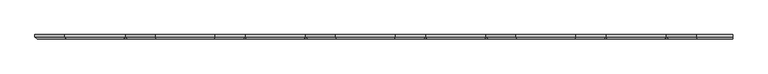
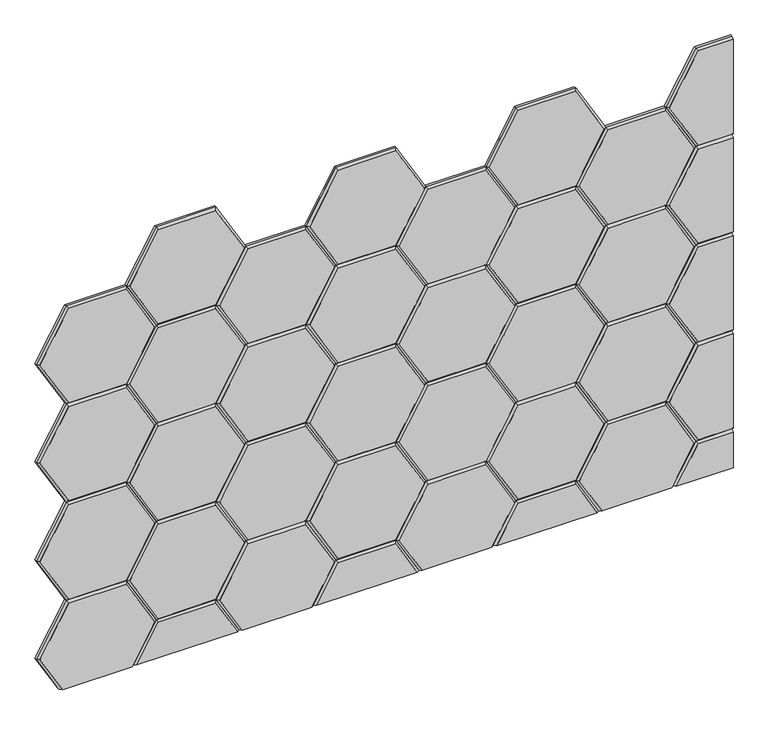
"""IFC4 building model written with IfcOpenShell, lengths in millimetres: proxy geometry, Wall_Clematis 3.3dm."""

from ifc_helpers import new_model, si_unit, origin, place, context, project, spatial, faceted_brep, source, transform, mapped, element, save


def generic_models_3ae3a5dc(model_context):
    return source(origin(), model_context, "Body", "Brep", [
        faceted_brep([(1120.2035, 12.0, 859.7506232), (1292.5425, 12.0, 859.7506232), (1378.712, 12.0, 710.5006711), (1292.5425, 12.0, 561.2507191), (1120.2035, 12.0, 561.2507191), (1034.034, 12.0, 710.5006711), (1120.2035, 6.0, 859.7506232), (1034.034, 6.0, 710.5006711), (1120.2035, 6.0, 561.2507191), (1292.5425, 6.0, 561.2507191), (1378.712, 6.0, 710.5006711), (1292.5425, 6.0, 859.7506232), (1289.0783984, 0.0, 853.7506232), (1123.6676016, 0.0, 853.7506232), (1040.9622032, 0.0, 710.5006711), (1123.6676016, 0.0, 567.2507191), (1289.0783984, 0.0, 567.2507191), (1371.7837968, 0.0, 710.5006711)], [[[0, 1, 2, 3, 4, 5]], [[6, 0, 5, 7]], [[7, 5, 4, 8]], [[8, 4, 3, 9]], [[9, 3, 2, 10]], [[10, 2, 1, 11]], [[11, 1, 0, 6]], [[12, 13, 14, 15, 16, 17]], [[6, 7, 14, 13]], [[7, 8, 15, 14]], [[8, 9, 16, 15]], [[9, 10, 17, 16]], [[10, 11, 12, 17]], [[11, 6, 13, 12]]]),
        faceted_brep([(1809.5595, 12.0, 859.7506232), (1895.729, 12.0, 710.5006711), (1809.5595, 12.0, 561.2507191), (1637.2205, 12.0, 561.2507191), (1551.051, 12.0, 710.5006711), (1637.2205, 12.0, 859.7506232), (1809.5595, 6.0, 859.7506232), (1895.729, 6.0, 710.5006711), (1809.5595, 6.0, 561.2507191), (1637.2205, 6.0, 561.2507191), (1551.051, 6.0, 710.5006711), (1637.2205, 6.0, 859.7506232), (1640.6846016, 0.0, 853.7506232), (1557.9792032, 0.0, 710.5006711), (1640.6846016, 0.0, 567.2507191), (1806.0953984, 0.0, 567.2507191), (1888.8007968, 0.0, 710.5006711), (1806.0953984, 0.0, 853.7506232)], [[[0, 1, 2, 3, 4, 5]], [[6, 7, 1, 0]], [[7, 8, 2, 1]], [[8, 9, 3, 2]], [[9, 10, 4, 3]], [[10, 11, 5, 4]], [[11, 6, 0, 5]], [[12, 13, 14, 15, 16, 17]], [[6, 17, 16, 7]], [[7, 16, 15, 8]], [[8, 15, 14, 9]], [[9, 14, 13, 10]], [[10, 13, 12, 11]], [[11, 12, 17, 6]]]),
        faceted_brep([(775.5255, 12.0, 859.7506232), (861.695, 12.0, 710.5006711), (775.5255, 12.0, 561.2507191), (603.1865, 12.0, 561.2507191), (517.017, 12.0, 710.5006711), (603.1865, 12.0, 859.7506232), (775.5255, 6.0, 859.7506232), (861.695, 6.0, 710.5006711), (775.5255, 6.0, 561.2507191), (603.1865, 6.0, 561.2507191), (517.017, 6.0, 710.5006711), (603.1865, 6.0, 859.7506232), (606.6506016, 0.0, 853.7506232), (523.9452032, 0.0, 710.5006711), (606.6506016, 0.0, 567.2507191), (772.0613984, 0.0, 567.2507191), (854.7667968, 0.0, 710.5006711), (772.0613984, 0.0, 853.7506232)], [[[0, 1, 2, 3, 4, 5]], [[6, 7, 1, 0]], [[7, 8, 2, 1]], [[8, 9, 3, 2]], [[9, 10, 4, 3]], [[10, 11, 5, 4]], [[11, 6, 0, 5]], [[12, 13, 14, 15, 16, 17]], [[6, 17, 16, 7]], [[7, 16, 15, 8]], [[8, 15, 14, 9]], [[9, 14, 13, 10]], [[10, 13, 12, 11]], [[11, 12, 17, 6]]]),
        faceted_brep([(86.1695, 12.0, 859.7506232), (258.5085, 12.0, 859.7506232), (344.678, 12.0, 710.5006711), (258.5085, 12.0, 561.2507191), (86.1695, 12.0, 561.2507191), (0.0, 12.0, 710.5006711), (86.1695, 6.0, 859.7506232), (0.0, 6.0, 710.5006711), (86.1695, 6.0, 561.2507191), (258.5085, 6.0, 561.2507191), (344.678, 6.0, 710.5006711), (258.5085, 6.0, 859.7506232), (255.0443984, 0.0, 853.7506232), (89.6336016, 0.0, 853.7506232), (6.9282032, 0.0, 710.5006711), (89.6336016, 0.0, 567.2507191), (255.0443984, 0.0, 567.2507191), (337.7497968, 0.0, 710.5006711)], [[[0, 1, 2, 3, 4, 5]], [[6, 0, 5, 7]], [[7, 5, 4, 8]], [[8, 4, 3, 9]], [[9, 3, 2, 10]], [[10, 2, 1, 11]], [[11, 1, 0, 6]], [[12, 13, 14, 15, 16, 17]], [[6, 7, 14, 13]], [[7, 8, 15, 14]], [[8, 9, 16, 15]], [[9, 10, 17, 16]], [[10, 11, 12, 17]], [[11, 6, 13, 12]]]),
        faceted_brep([(2000.0, 12.0, 710.5006711), (1895.729, 12.0, 710.5006711), (1809.5595, 12.0, 859.7506232), (1895.729, 12.0, 1009.0005752), (2000.0, 12.0, 1009.0005752), (1895.729, 6.0, 1009.0005752), (1809.5595, 6.0, 859.7506232), (1895.729, 6.0, 710.5006711), (2000.0, 6.0, 710.5006711), (2000.0, 6.0, 1009.0005752), (2000.0, 0.0, 716.5006711), (2000.0, 0.0, 1003.0005752), (1899.1931016, 0.0, 1003.0005752), (1816.4877032, 0.0, 859.7506232), (1899.1931016, 0.0, 716.5006711)], [[[0, 1, 2, 3, 4]], [[5, 3, 2, 6]], [[6, 2, 1, 7]], [[0, 8, 7, 1]], [[9, 4, 3, 5]], [[10, 11, 12, 13, 14]], [[5, 6, 13, 12]], [[6, 7, 14, 13]], [[8, 10, 14, 7]], [[11, 9, 5, 12]], [[0, 4, 9, 11, 10, 8]]]),
        faceted_brep([(1551.051, 12.0, 1009.0005752), (1637.2205, 12.0, 859.7506232), (1551.051, 12.0, 710.5006711), (1378.712, 12.0, 710.5006711), (1292.5425, 12.0, 859.7506232), (1378.712, 12.0, 1009.0005752), (1551.051, 6.0, 1009.0005752), (1637.2205, 6.0, 859.7506232), (1551.051, 6.0, 710.5006711), (1378.712, 6.0, 710.5006711), (1292.5425, 6.0, 859.7506232), (1378.712, 6.0, 1009.0005752), (1382.1761016, 0.0, 1003.0005752), (1299.4707032, 0.0, 859.7506232), (1382.1761016, 0.0, 716.5006711), (1547.5868984, 0.0, 716.5006711), (1630.2922968, 0.0, 859.7506232), (1547.5868984, 0.0, 1003.0005752)], [[[0, 1, 2, 3, 4, 5]], [[6, 7, 1, 0]], [[7, 8, 2, 1]], [[8, 9, 3, 2]], [[9, 10, 4, 3]], [[10, 11, 5, 4]], [[11, 6, 0, 5]], [[12, 13, 14, 15, 16, 17]], [[6, 17, 16, 7]], [[7, 16, 15, 8]], [[8, 15, 14, 9]], [[9, 14, 13, 10]], [[10, 13, 12, 11]], [[11, 12, 17, 6]]]),
        faceted_brep([(1034.034, 12.0, 1009.0005752), (1120.2035, 12.0, 859.7506232), (1034.034, 12.0, 710.5006711), (861.695, 12.0, 710.5006711), (775.5255, 12.0, 859.7506232), (861.695, 12.0, 1009.0005752), (1034.034, 6.0, 1009.0005752), (1120.2035, 6.0, 859.7506232), (1034.034, 6.0, 710.5006711), (861.695, 6.0, 710.5006711), (775.5255, 6.0, 859.7506232), (861.695, 6.0, 1009.0005752), (865.1591016, 0.0, 1003.0005752), (782.4537032, 0.0, 859.7506232), (865.1591016, 0.0, 716.5006711), (1030.5698984, 0.0, 716.5006711), (1113.2752968, 0.0, 859.7506232), (1030.5698984, 0.0, 1003.0005752)], [[[0, 1, 2, 3, 4, 5]], [[6, 7, 1, 0]], [[7, 8, 2, 1]], [[8, 9, 3, 2]], [[9, 10, 4, 3]], [[10, 11, 5, 4]], [[11, 6, 0, 5]], [[12, 13, 14, 15, 16, 17]], [[6, 17, 16, 7]], [[7, 16, 15, 8]], [[8, 15, 14, 9]], [[9, 14, 13, 10]], [[10, 13, 12, 11]], [[11, 12, 17, 6]]]),
        faceted_brep([(344.678, 12.0, 1009.0005752), (517.017, 12.0, 1009.0005752), (603.1865, 12.0, 859.7506232), (517.017, 12.0, 710.5006711), (344.678, 12.0, 710.5006711), (258.5085, 12.0, 859.7506232), (344.678, 6.0, 1009.0005752), (258.5085, 6.0, 859.7506232), (344.678, 6.0, 710.5006711), (517.017, 6.0, 710.5006711), (603.1865, 6.0, 859.7506232), (517.017, 6.0, 1009.0005752), (513.5528984, 0.0, 1003.0005752), (348.1421016, 0.0, 1003.0005752), (265.4367032, 0.0, 859.7506232), (348.1421016, 0.0, 716.5006711), (513.5528984, 0.0, 716.5006711), (596.2582968, 0.0, 859.7506232)], [[[0, 1, 2, 3, 4, 5]], [[6, 0, 5, 7]], [[7, 5, 4, 8]], [[8, 4, 3, 9]], [[9, 3, 2, 10]], [[10, 2, 1, 11]], [[11, 1, 0, 6]], [[12, 13, 14, 15, 16, 17]], [[6, 7, 14, 13]], [[7, 8, 15, 14]], [[8, 9, 16, 15]], [[9, 10, 17, 16]], [[10, 11, 12, 17]], [[11, 6, 13, 12]]]),
        faceted_brep([(2000.0, 12.0, 1307.5004794), (2000.0, 12.0, 1009.0005752), (1895.729, 12.0, 1009.0005752), (1809.5595, 12.0, 1158.2505273), (1895.729, 12.0, 1307.5004794), (1895.729, 6.0, 1009.0005752), (1809.5595, 6.0, 1158.2505273), (1895.729, 6.0, 1307.5004794), (2000.0, 6.0, 1307.5004794), (2000.0, 6.0, 1009.0005752), (2000.0, 0.0, 1301.5004794), (1899.1931016, 0.0, 1301.5004794), (1816.4877032, 0.0, 1158.2505273), (1899.1931016, 0.0, 1015.0005752), (2000.0, 0.0, 1015.0005752)], [[[0, 1, 2, 3, 4]], [[5, 6, 3, 2]], [[6, 7, 4, 3]], [[0, 4, 7, 8]], [[9, 5, 2, 1]], [[10, 11, 12, 13, 14]], [[5, 13, 12, 6]], [[6, 12, 11, 7]], [[8, 7, 11, 10]], [[14, 13, 5, 9]], [[0, 8, 10, 14, 9, 1]]]),
        faceted_brep([(1120.2035, 12.0, 859.7506232), (1034.034, 12.0, 1009.0005752), (1120.2035, 12.0, 1158.2505273), (1292.5425, 12.0, 1158.2505273), (1378.712, 12.0, 1009.0005752), (1292.5425, 12.0, 859.7506232), (1120.2035, 6.0, 859.7506232), (1034.034, 6.0, 1009.0005752), (1120.2035, 6.0, 1158.2505273), (1292.5425, 6.0, 1158.2505273), (1378.712, 6.0, 1009.0005752), (1292.5425, 6.0, 859.7506232), (1289.0783984, 0.0, 865.7506232), (1371.7837968, 0.0, 1009.0005752), (1289.0783984, 0.0, 1152.2505273), (1123.6676016, 0.0, 1152.2505273), (1040.9622032, 0.0, 1009.0005752), (1123.6676016, 0.0, 865.7506232)], [[[0, 1, 2, 3, 4, 5]], [[6, 7, 1, 0]], [[7, 8, 2, 1]], [[8, 9, 3, 2]], [[9, 10, 4, 3]], [[10, 11, 5, 4]], [[11, 6, 0, 5]], [[12, 13, 14, 15, 16, 17]], [[6, 17, 16, 7]], [[7, 16, 15, 8]], [[8, 15, 14, 9]], [[9, 14, 13, 10]], [[10, 13, 12, 11]], [[11, 12, 17, 6]]]),
        faceted_brep([(1809.5595, 12.0, 859.7506232), (1637.2205, 12.0, 859.7506232), (1551.051, 12.0, 1009.0005752), (1637.2205, 12.0, 1158.2505273), (1809.5595, 12.0, 1158.2505273), (1895.729, 12.0, 1009.0005752), (1809.5595, 6.0, 859.7506232), (1895.729, 6.0, 1009.0005752), (1809.5595, 6.0, 1158.2505273), (1637.2205, 6.0, 1158.2505273), (1551.051, 6.0, 1009.0005752), (1637.2205, 6.0, 859.7506232), (1640.6846016, 0.0, 865.7506232), (1806.0953984, 0.0, 865.7506232), (1888.8007968, 0.0, 1009.0005752), (1806.0953984, 0.0, 1152.2505273), (1640.6846016, 0.0, 1152.2505273), (1557.9792032, 0.0, 1009.0005752)], [[[0, 1, 2, 3, 4, 5]], [[6, 0, 5, 7]], [[7, 5, 4, 8]], [[8, 4, 3, 9]], [[9, 3, 2, 10]], [[10, 2, 1, 11]], [[11, 1, 0, 6]], [[12, 13, 14, 15, 16, 17]], [[6, 7, 14, 13]], [[7, 8, 15, 14]], [[8, 9, 16, 15]], [[9, 10, 17, 16]], [[10, 11, 12, 17]], [[11, 6, 13, 12]]]),
        faceted_brep([(1551.051, 12.0, 1009.0005752), (1378.712, 12.0, 1009.0005752), (1292.5425, 12.0, 1158.2505273), (1378.712, 12.0, 1307.5004794), (1551.051, 12.0, 1307.5004794), (1637.2205, 12.0, 1158.2505273), (1551.051, 6.0, 1009.0005752), (1637.2205, 6.0, 1158.2505273), (1551.051, 6.0, 1307.5004794), (1378.712, 6.0, 1307.5004794), (1292.5425, 6.0, 1158.2505273), (1378.712, 6.0, 1009.0005752), (1382.1761016, 0.0, 1015.0005752), (1547.5868984, 0.0, 1015.0005752), (1630.2922968, 0.0, 1158.2505273), (1547.5868984, 0.0, 1301.5004794), (1382.1761016, 0.0, 1301.5004794), (1299.4707032, 0.0, 1158.2505273)], [[[0, 1, 2, 3, 4, 5]], [[6, 0, 5, 7]], [[7, 5, 4, 8]], [[8, 4, 3, 9]], [[9, 3, 2, 10]], [[10, 2, 1, 11]], [[11, 1, 0, 6]], [[12, 13, 14, 15, 16, 17]], [[6, 7, 14, 13]], [[7, 8, 15, 14]], [[8, 9, 16, 15]], [[9, 10, 17, 16]], [[10, 11, 12, 17]], [[11, 6, 13, 12]]]),
        faceted_brep([(1034.034, 12.0, 1009.0005752), (861.695, 12.0, 1009.0005752), (775.5255, 12.0, 1158.2505273), (861.695, 12.0, 1307.5004794), (1034.034, 12.0, 1307.5004794), (1120.2035, 12.0, 1158.2505273), (1034.034, 6.0, 1009.0005752), (1120.2035, 6.0, 1158.2505273), (1034.034, 6.0, 1307.5004794), (861.695, 6.0, 1307.5004794), (775.5255, 6.0, 1158.2505273), (861.695, 6.0, 1009.0005752), (865.1591016, 0.0, 1015.0005752), (1030.5698984, 0.0, 1015.0005752), (1113.2752968, 0.0, 1158.2505273), (1030.5698984, 0.0, 1301.5004794), (865.1591016, 0.0, 1301.5004794), (782.4537032, 0.0, 1158.2505273)], [[[0, 1, 2, 3, 4, 5]], [[6, 0, 5, 7]], [[7, 5, 4, 8]], [[8, 4, 3, 9]], [[9, 3, 2, 10]], [[10, 2, 1, 11]], [[11, 1, 0, 6]], [[12, 13, 14, 15, 16, 17]], [[6, 7, 14, 13]], [[7, 8, 15, 14]], [[8, 9, 16, 15]], [[9, 10, 17, 16]], [[10, 11, 12, 17]], [[11, 6, 13, 12]]]),
        faceted_brep([(775.5255, 12.0, 859.7506232), (603.1865, 12.0, 859.7506232), (517.017, 12.0, 1009.0005752), (603.1865, 12.0, 1158.2505273), (775.5255, 12.0, 1158.2505273), (861.695, 12.0, 1009.0005752), (775.5255, 6.0, 859.7506232), (861.695, 6.0, 1009.0005752), (775.5255, 6.0, 1158.2505273), (603.1865, 6.0, 1158.2505273), (517.017, 6.0, 1009.0005752), (603.1865, 6.0, 859.7506232), (606.6506016, 0.0, 865.7506232), (772.0613984, 0.0, 865.7506232), (854.7667968, 0.0, 1009.0005752), (772.0613984, 0.0, 1152.2505273), (606.6506016, 0.0, 1152.2505273), (523.9452032, 0.0, 1009.0005752)], [[[0, 1, 2, 3, 4, 5]], [[6, 0, 5, 7]], [[7, 5, 4, 8]], [[8, 4, 3, 9]], [[9, 3, 2, 10]], [[10, 2, 1, 11]], [[11, 1, 0, 6]], [[12, 13, 14, 15, 16, 17]], [[6, 7, 14, 13]], [[7, 8, 15, 14]], [[8, 9, 16, 15]], [[9, 10, 17, 16]], [[10, 11, 12, 17]], [[11, 6, 13, 12]]]),
        faceted_brep([(86.1695, 12.0, 859.7506232), (0.0, 12.0, 1009.0005752), (86.1695, 12.0, 1158.2505273), (258.5085, 12.0, 1158.2505273), (344.678, 12.0, 1009.0005752), (258.5085, 12.0, 859.7506232), (86.1695, 6.0, 859.7506232), (0.0, 6.0, 1009.0005752), (86.1695, 6.0, 1158.2505273), (258.5085, 6.0, 1158.2505273), (344.678, 6.0, 1009.0005752), (258.5085, 6.0, 859.7506232), (255.0443984, 0.0, 865.7506232), (337.7497968, 0.0, 1009.0005752), (255.0443984, 0.0, 1152.2505273), (89.6336016, 0.0, 1152.2505273), (6.9282032, 0.0, 1009.0005752), (89.6336016, 0.0, 865.7506232)], [[[0, 1, 2, 3, 4, 5]], [[6, 7, 1, 0]], [[7, 8, 2, 1]], [[8, 9, 3, 2]], [[9, 10, 4, 3]], [[10, 11, 5, 4]], [[11, 6, 0, 5]], [[12, 13, 14, 15, 16, 17]], [[6, 17, 16, 7]], [[7, 16, 15, 8]], [[8, 15, 14, 9]], [[9, 14, 13, 10]], [[10, 13, 12, 11]], [[11, 12, 17, 6]]]),
        faceted_brep([(344.678, 12.0, 1009.0005752), (258.5085, 12.0, 1158.2505273), (344.678, 12.0, 1307.5004794), (517.017, 12.0, 1307.5004794), (603.1865, 12.0, 1158.2505273), (517.017, 12.0, 1009.0005752), (344.678, 6.0, 1009.0005752), (258.5085, 6.0, 1158.2505273), (344.678, 6.0, 1307.5004794), (517.017, 6.0, 1307.5004794), (603.1865, 6.0, 1158.2505273), (517.017, 6.0, 1009.0005752), (513.5528984, 0.0, 1015.0005752), (596.2582968, 0.0, 1158.2505273), (513.5528984, 0.0, 1301.5004794), (348.1421016, 0.0, 1301.5004794), (265.4367032, 0.0, 1158.2505273), (348.1421016, 0.0, 1015.0005752)], [[[0, 1, 2, 3, 4, 5]], [[6, 7, 1, 0]], [[7, 8, 2, 1]], [[8, 9, 3, 2]], [[9, 10, 4, 3]], [[10, 11, 5, 4]], [[11, 6, 0, 5]], [[12, 13, 14, 15, 16, 17]], [[6, 17, 16, 7]], [[7, 16, 15, 8]], [[8, 15, 14, 9]], [[9, 14, 13, 10]], [[10, 13, 12, 11]], [[11, 12, 17, 6]]]),
        faceted_brep([(2000.0, 12.0, 710.5006711), (2000.0, 12.0, 412.000767), (1895.729, 12.0, 412.000767), (1809.5595, 12.0, 561.2507191), (1895.729, 12.0, 710.5006711), (1895.729, 6.0, 412.000767), (1809.5595, 6.0, 561.2507191), (1895.729, 6.0, 710.5006711), (2000.0, 6.0, 710.5006711), (2000.0, 6.0, 412.000767), (2000.0, 0.0, 704.5006711), (1899.1931016, 0.0, 704.5006711), (1816.4877032, 0.0, 561.2507191), (1899.1931016, 0.0, 418.000767), (2000.0, 0.0, 418.000767)], [[[0, 1, 2, 3, 4]], [[5, 6, 3, 2]], [[6, 7, 4, 3]], [[0, 4, 7, 8]], [[9, 5, 2, 1]], [[10, 11, 12, 13, 14]], [[5, 13, 12, 6]], [[6, 12, 11, 7]], [[8, 7, 11, 10]], [[14, 13, 5, 9]], [[0, 8, 10, 14, 9, 1]]]),
        faceted_brep([(1120.2035, 12.0, 262.7508149), (1034.034, 12.0, 412.000767), (1120.2035, 12.0, 561.2507191), (1292.5425, 12.0, 561.2507191), (1378.712, 12.0, 412.000767), (1292.5425, 12.0, 262.7508149), (1120.2035, 6.0, 262.7508149), (1034.034, 6.0, 412.000767), (1120.2035, 6.0, 561.2507191), (1292.5425, 6.0, 561.2507191), (1378.712, 6.0, 412.000767), (1292.5425, 6.0, 262.7508149), (1289.0783984, 0.0, 268.7508149), (1371.7837968, 0.0, 412.000767), (1289.0783984, 0.0, 555.2507191), (1123.6676016, 0.0, 555.2507191), (1040.9622032, 0.0, 412.000767), (1123.6676016, 0.0, 268.7508149)], [[[0, 1, 2, 3, 4, 5]], [[6, 7, 1, 0]], [[7, 8, 2, 1]], [[8, 9, 3, 2]], [[9, 10, 4, 3]], [[10, 11, 5, 4]], [[11, 6, 0, 5]], [[12, 13, 14, 15, 16, 17]], [[6, 17, 16, 7]], [[7, 16, 15, 8]], [[8, 15, 14, 9]], [[9, 14, 13, 10]], [[10, 13, 12, 11]], [[11, 12, 17, 6]]]),
        faceted_brep([(1809.5595, 12.0, 262.7508149), (1637.2205, 12.0, 262.7508149), (1551.051, 12.0, 412.000767), (1637.2205, 12.0, 561.2507191), (1809.5595, 12.0, 561.2507191), (1895.729, 12.0, 412.000767), (1809.5595, 6.0, 262.7508149), (1895.729, 6.0, 412.000767), (1809.5595, 6.0, 561.2507191), (1637.2205, 6.0, 561.2507191), (1551.051, 6.0, 412.000767), (1637.2205, 6.0, 262.7508149), (1640.6846016, 0.0, 268.7508149), (1806.0953984, 0.0, 268.7508149), (1888.8007968, 0.0, 412.000767), (1806.0953984, 0.0, 555.2507191), (1640.6846016, 0.0, 555.2507191), (1557.9792032, 0.0, 412.000767)], [[[0, 1, 2, 3, 4, 5]], [[6, 0, 5, 7]], [[7, 5, 4, 8]], [[8, 4, 3, 9]], [[9, 3, 2, 10]], [[10, 2, 1, 11]], [[11, 1, 0, 6]], [[12, 13, 14, 15, 16, 17]], [[6, 7, 14, 13]], [[7, 8, 15, 14]], [[8, 9, 16, 15]], [[9, 10, 17, 16]], [[10, 11, 12, 17]], [[11, 6, 13, 12]]]),
        faceted_brep([(1551.051, 12.0, 412.000767), (1378.712, 12.0, 412.000767), (1292.5425, 12.0, 561.2507191), (1378.712, 12.0, 710.5006711), (1551.051, 12.0, 710.5006711), (1637.2205, 12.0, 561.2507191), (1551.051, 6.0, 412.000767), (1637.2205, 6.0, 561.2507191), (1551.051, 6.0, 710.5006711), (1378.712, 6.0, 710.5006711), (1292.5425, 6.0, 561.2507191), (1378.712, 6.0, 412.000767), (1382.1761016, 0.0, 418.000767), (1547.5868984, 0.0, 418.000767), (1630.2922968, 0.0, 561.2507191), (1547.5868984, 0.0, 704.5006711), (1382.1761016, 0.0, 704.5006711), (1299.4707032, 0.0, 561.2507191)], [[[0, 1, 2, 3, 4, 5]], [[6, 0, 5, 7]], [[7, 5, 4, 8]], [[8, 4, 3, 9]], [[9, 3, 2, 10]], [[10, 2, 1, 11]], [[11, 1, 0, 6]], [[12, 13, 14, 15, 16, 17]], [[6, 7, 14, 13]], [[7, 8, 15, 14]], [[8, 9, 16, 15]], [[9, 10, 17, 16]], [[10, 11, 12, 17]], [[11, 6, 13, 12]]]),
        faceted_brep([(1034.034, 12.0, 412.000767), (861.695, 12.0, 412.000767), (775.5255, 12.0, 561.2507191), (861.695, 12.0, 710.5006711), (1034.034, 12.0, 710.5006711), (1120.2035, 12.0, 561.2507191), (1034.034, 6.0, 412.000767), (1120.2035, 6.0, 561.2507191), (1034.034, 6.0, 710.5006711), (861.695, 6.0, 710.5006711), (775.5255, 6.0, 561.2507191), (861.695, 6.0, 412.000767), (865.1591016, 0.0, 418.000767), (1030.5698984, 0.0, 418.000767), (1113.2752968, 0.0, 561.2507191), (1030.5698984, 0.0, 704.5006711), (865.1591016, 0.0, 704.5006711), (782.4537032, 0.0, 561.2507191)], [[[0, 1, 2, 3, 4, 5]], [[6, 0, 5, 7]], [[7, 5, 4, 8]], [[8, 4, 3, 9]], [[9, 3, 2, 10]], [[10, 2, 1, 11]], [[11, 1, 0, 6]], [[12, 13, 14, 15, 16, 17]], [[6, 7, 14, 13]], [[7, 8, 15, 14]], [[8, 9, 16, 15]], [[9, 10, 17, 16]], [[10, 11, 12, 17]], [[11, 6, 13, 12]]]),
        faceted_brep([(775.5255, 12.0, 262.7508149), (603.1865, 12.0, 262.7508149), (517.017, 12.0, 412.000767), (603.1865, 12.0, 561.2507191), (775.5255, 12.0, 561.2507191), (861.695, 12.0, 412.000767), (775.5255, 6.0, 262.7508149), (861.695, 6.0, 412.000767), (775.5255, 6.0, 561.2507191), (603.1865, 6.0, 561.2507191), (517.017, 6.0, 412.000767), (603.1865, 6.0, 262.7508149), (606.6506016, 0.0, 268.7508149), (772.0613984, 0.0, 268.7508149), (854.7667968, 0.0, 412.000767), (772.0613984, 0.0, 555.2507191), (606.6506016, 0.0, 555.2507191), (523.9452032, 0.0, 412.000767)], [[[0, 1, 2, 3, 4, 5]], [[6, 0, 5, 7]], [[7, 5, 4, 8]], [[8, 4, 3, 9]], [[9, 3, 2, 10]], [[10, 2, 1, 11]], [[11, 1, 0, 6]], [[12, 13, 14, 15, 16, 17]], [[6, 7, 14, 13]], [[7, 8, 15, 14]], [[8, 9, 16, 15]], [[9, 10, 17, 16]], [[10, 11, 12, 17]], [[11, 6, 13, 12]]]),
        faceted_brep([(86.1695, 12.0, 262.7508149), (0.0, 12.0, 412.000767), (86.1695, 12.0, 561.2507191), (258.5085, 12.0, 561.2507191), (344.678, 12.0, 412.000767), (258.5085, 12.0, 262.7508149), (86.1695, 6.0, 262.7508149), (0.0, 6.0, 412.000767), (86.1695, 6.0, 561.2507191), (258.5085, 6.0, 561.2507191), (344.678, 6.0, 412.000767), (258.5085, 6.0, 262.7508149), (255.0443984, 0.0, 268.7508149), (337.7497968, 0.0, 412.000767), (255.0443984, 0.0, 555.2507191), (89.6336016, 0.0, 555.2507191), (6.9282032, 0.0, 412.000767), (89.6336016, 0.0, 268.7508149)], [[[0, 1, 2, 3, 4, 5]], [[6, 7, 1, 0]], [[7, 8, 2, 1]], [[8, 9, 3, 2]], [[9, 10, 4, 3]], [[10, 11, 5, 4]], [[11, 6, 0, 5]], [[12, 13, 14, 15, 16, 17]], [[6, 17, 16, 7]], [[7, 16, 15, 8]], [[8, 15, 14, 9]], [[9, 14, 13, 10]], [[10, 13, 12, 11]], [[11, 12, 17, 6]]]),
        faceted_brep([(344.678, 12.0, 412.000767), (258.5085, 12.0, 561.2507191), (344.678, 12.0, 710.5006711), (517.017, 12.0, 710.5006711), (603.1865, 12.0, 561.2507191), (517.017, 12.0, 412.000767), (344.678, 6.0, 412.000767), (258.5085, 6.0, 561.2507191), (344.678, 6.0, 710.5006711), (517.017, 6.0, 710.5006711), (603.1865, 6.0, 561.2507191), (517.017, 6.0, 412.000767), (513.5528984, 0.0, 418.000767), (596.2582968, 0.0, 561.2507191), (513.5528984, 0.0, 704.5006711), (348.1421016, 0.0, 704.5006711), (265.4367032, 0.0, 561.2507191), (348.1421016, 0.0, 418.000767)], [[[0, 1, 2, 3, 4, 5]], [[6, 7, 1, 0]], [[7, 8, 2, 1]], [[8, 9, 3, 2]], [[9, 10, 4, 3]], [[10, 11, 5, 4]], [[11, 6, 0, 5]], [[12, 13, 14, 15, 16, 17]], [[6, 17, 16, 7]], [[7, 16, 15, 8]], [[8, 15, 14, 9]], [[9, 14, 13, 10]], [[10, 13, 12, 11]], [[11, 12, 17, 6]]]),
        faceted_brep([(2000.0, 12.0, 412.000767), (2000.0, 12.0, 113.5008629), (1895.729, 12.0, 113.5008629), (1809.5595, 12.0, 262.7508149), (1895.729, 12.0, 412.000767), (1895.729, 6.0, 113.5008629), (1809.5595, 6.0, 262.7508149), (1895.729, 6.0, 412.000767), (2000.0, 6.0, 412.000767), (2000.0, 6.0, 113.5008629), (2000.0, 0.0, 406.000767), (1899.1931016, 0.0, 406.000767), (1816.4877032, 0.0, 262.7508149), (1899.1931016, 0.0, 119.5008629), (2000.0, 0.0, 119.5008629)], [[[0, 1, 2, 3, 4]], [[5, 6, 3, 2]], [[6, 7, 4, 3]], [[0, 4, 7, 8]], [[9, 5, 2, 1]], [[10, 11, 12, 13, 14]], [[5, 13, 12, 6]], [[6, 12, 11, 7]], [[8, 7, 11, 10]], [[14, 13, 5, 9]], [[0, 8, 10, 14, 9, 1]]]),
        faceted_brep([(1551.051, 12.0, 113.5008629), (1378.712, 12.0, 113.5008629), (1292.5425, 12.0, 262.7508149), (1378.712, 12.0, 412.000767), (1551.051, 12.0, 412.000767), (1637.2205, 12.0, 262.7508149), (1551.051, 6.0, 113.5008629), (1637.2205, 6.0, 262.7508149), (1551.051, 6.0, 412.000767), (1378.712, 6.0, 412.000767), (1292.5425, 6.0, 262.7508149), (1378.712, 6.0, 113.5008629), (1382.1761016, 0.0, 119.5008629), (1547.5868984, 0.0, 119.5008629), (1630.2922968, 0.0, 262.7508149), (1547.5868984, 0.0, 406.000767), (1382.1761016, 0.0, 406.000767), (1299.4707032, 0.0, 262.7508149)], [[[0, 1, 2, 3, 4, 5]], [[6, 0, 5, 7]], [[7, 5, 4, 8]], [[8, 4, 3, 9]], [[9, 3, 2, 10]], [[10, 2, 1, 11]], [[11, 1, 0, 6]], [[12, 13, 14, 15, 16, 17]], [[6, 7, 14, 13]], [[7, 8, 15, 14]], [[8, 9, 16, 15]], [[9, 10, 17, 16]], [[10, 11, 12, 17]], [[11, 6, 13, 12]]]),
        faceted_brep([(1034.034, 12.0, 113.5008629), (861.695, 12.0, 113.5008629), (775.5255, 12.0, 262.7508149), (861.695, 12.0, 412.000767), (1034.034, 12.0, 412.000767), (1120.2035, 12.0, 262.7508149), (1034.034, 6.0, 113.5008629), (1120.2035, 6.0, 262.7508149), (1034.034, 6.0, 412.000767), (861.695, 6.0, 412.000767), (775.5255, 6.0, 262.7508149), (861.695, 6.0, 113.5008629), (865.1591016, 0.0, 119.5008629), (1030.5698984, 0.0, 119.5008629), (1113.2752968, 0.0, 262.7508149), (1030.5698984, 0.0, 406.000767), (865.1591016, 0.0, 406.000767), (782.4537032, 0.0, 262.7508149)], [[[0, 1, 2, 3, 4, 5]], [[6, 0, 5, 7]], [[7, 5, 4, 8]], [[8, 4, 3, 9]], [[9, 3, 2, 10]], [[10, 2, 1, 11]], [[11, 1, 0, 6]], [[12, 13, 14, 15, 16, 17]], [[6, 7, 14, 13]], [[7, 8, 15, 14]], [[8, 9, 16, 15]], [[9, 10, 17, 16]], [[10, 11, 12, 17]], [[11, 6, 13, 12]]]),
        faceted_brep([(344.678, 12.0, 113.5008629), (258.5085, 12.0, 262.7508149), (344.678, 12.0, 412.000767), (517.017, 12.0, 412.000767), (603.1865, 12.0, 262.7508149), (517.017, 12.0, 113.5008629), (344.678, 6.0, 113.5008629), (258.5085, 6.0, 262.7508149), (344.678, 6.0, 412.000767), (517.017, 6.0, 412.000767), (603.1865, 6.0, 262.7508149), (517.017, 6.0, 113.5008629), (513.5528984, 0.0, 119.5008629), (596.2582968, 0.0, 262.7508149), (513.5528984, 0.0, 406.000767), (348.1421016, 0.0, 406.000767), (265.4367032, 0.0, 262.7508149), (348.1421016, 0.0, 119.5008629)], [[[0, 1, 2, 3, 4, 5]], [[6, 7, 1, 0]], [[7, 8, 2, 1]], [[8, 9, 3, 2]], [[9, 10, 4, 3]], [[10, 11, 5, 4]], [[11, 6, 0, 5]], [[12, 13, 14, 15, 16, 17]], [[6, 17, 16, 7]], [[7, 16, 15, 8]], [[8, 15, 14, 9]], [[9, 14, 13, 10]], [[10, 13, 12, 11]], [[11, 12, 17, 6]]]),
        faceted_brep([(2000.0, 12.0, 0.0), (1830.1992463, 12.0, 0.0), (1895.729, 12.0, 113.5008629), (2000.0, 12.0, 113.5008629), (1830.1992463, 6.0, 0.0), (1895.729, 6.0, 113.5008629), (2000.0, 6.0, 113.5008629), (1837.1274495, 0.0, 0.0), (2000.0, 0.0, 0.0), (2000.0, 0.0, 107.5008629), (1899.1931016, 0.0, 107.5008629)], [[[0, 1, 2, 3]], [[1, 4, 5, 2]], [[6, 3, 2, 5]], [[7, 8, 9, 10]], [[4, 7, 10, 5]], [[9, 6, 5, 10]], [[7, 4, 1, 0, 8]], [[0, 3, 6, 9, 8]]]),
        faceted_brep([(1099.5637537, 12.0, 0.0), (1034.034, 12.0, 113.5008629), (1120.2035, 12.0, 262.7508149), (1292.5425, 12.0, 262.7508149), (1378.712, 12.0, 113.5008629), (1313.1822463, 12.0, 0.0), (1120.2035, 6.0, 262.7508149), (1034.034, 6.0, 113.5008629), (1099.5637537, 6.0, 0.0), (1313.1822463, 6.0, 0.0), (1378.712, 6.0, 113.5008629), (1292.5425, 6.0, 262.7508149), (1106.491957, 0.0, 0.0), (1306.254043, 0.0, 0.0), (1371.7837968, 0.0, 113.5008629), (1289.0783984, 0.0, 256.7508149), (1123.6676016, 0.0, 256.7508149), (1040.9622032, 0.0, 113.5008629)], [[[0, 1, 2, 3, 4, 5]], [[6, 2, 1, 7]], [[0, 8, 7, 1]], [[9, 5, 4, 10]], [[10, 4, 3, 11]], [[11, 3, 2, 6]], [[12, 13, 14, 15, 16, 17]], [[6, 7, 17, 16]], [[8, 12, 17, 7]], [[13, 9, 10, 14]], [[10, 11, 15, 14]], [[11, 6, 16, 15]], [[0, 5, 9, 13, 12, 8]]]),
        faceted_brep([(1830.1992463, 12.0, 0.0), (1616.5807537, 12.0, 0.0), (1551.051, 12.0, 113.5008629), (1637.2205, 12.0, 262.7508149), (1809.5595, 12.0, 262.7508149), (1895.729, 12.0, 113.5008629), (1809.5595, 6.0, 262.7508149), (1895.729, 6.0, 113.5008629), (1830.1992463, 6.0, 0.0), (1616.5807537, 6.0, 0.0), (1551.051, 6.0, 113.5008629), (1637.2205, 6.0, 262.7508149), (1823.271043, 0.0, 0.0), (1888.8007968, 0.0, 113.5008629), (1806.0953984, 0.0, 256.7508149), (1640.6846016, 0.0, 256.7508149), (1557.9792032, 0.0, 113.5008629), (1623.508957, 0.0, 0.0)], [[[0, 1, 2, 3, 4, 5]], [[6, 7, 5, 4]], [[0, 5, 7, 8]], [[9, 10, 2, 1]], [[10, 11, 3, 2]], [[11, 6, 4, 3]], [[12, 13, 14, 15, 16, 17]], [[6, 14, 13, 7]], [[8, 7, 13, 12]], [[17, 16, 10, 9]], [[10, 16, 15, 11]], [[11, 15, 14, 6]], [[0, 8, 12, 17, 9, 1]]]),
        faceted_brep([(1616.5807537, 12.0, 0.0), (1313.1822463, 12.0, 0.0), (1378.712, 12.0, 113.5008629), (1551.051, 12.0, 113.5008629), (1551.051, 6.0, 113.5008629), (1616.5807537, 6.0, 0.0), (1313.1822463, 6.0, 0.0), (1378.712, 6.0, 113.5008629), (1609.6525505, 0.0, 0.0), (1547.5868984, 0.0, 107.5008629), (1382.1761016, 0.0, 107.5008629), (1320.1104495, 0.0, 0.0)], [[[0, 1, 2, 3]], [[0, 3, 4, 5]], [[6, 7, 2, 1]], [[7, 4, 3, 2]], [[8, 9, 10, 11]], [[5, 4, 9, 8]], [[11, 10, 7, 6]], [[7, 10, 9, 4]], [[0, 5, 8, 11, 6, 1]]]),
        faceted_brep([(1099.5637537, 12.0, 0.0), (796.1652463, 12.0, 0.0), (861.695, 12.0, 113.5008629), (1034.034, 12.0, 113.5008629), (1034.034, 6.0, 113.5008629), (1099.5637537, 6.0, 0.0), (796.1652463, 6.0, 0.0), (861.695, 6.0, 113.5008629), (1092.6355505, 0.0, 0.0), (1030.5698984, 0.0, 107.5008629), (865.1591016, 0.0, 107.5008629), (803.0934495, 0.0, 0.0)], [[[0, 1, 2, 3]], [[0, 3, 4, 5]], [[6, 7, 2, 1]], [[7, 4, 3, 2]], [[8, 9, 10, 11]], [[5, 4, 9, 8]], [[11, 10, 7, 6]], [[7, 10, 9, 4]], [[0, 5, 8, 11, 6, 1]]]),
        faceted_brep([(796.1652463, 12.0, 0.0), (582.5467537, 12.0, 0.0), (517.017, 12.0, 113.5008629), (603.1865, 12.0, 262.7508149), (775.5255, 12.0, 262.7508149), (861.695, 12.0, 113.5008629), (775.5255, 6.0, 262.7508149), (861.695, 6.0, 113.5008629), (796.1652463, 6.0, 0.0), (582.5467537, 6.0, 0.0), (517.017, 6.0, 113.5008629), (603.1865, 6.0, 262.7508149), (789.237043, 0.0, 0.0), (854.7667968, 0.0, 113.5008629), (772.0613984, 0.0, 256.7508149), (606.6506016, 0.0, 256.7508149), (523.9452032, 0.0, 113.5008629), (589.474957, 0.0, 0.0)], [[[0, 1, 2, 3, 4, 5]], [[6, 7, 5, 4]], [[0, 5, 7, 8]], [[9, 10, 2, 1]], [[10, 11, 3, 2]], [[11, 6, 4, 3]], [[12, 13, 14, 15, 16, 17]], [[6, 14, 13, 7]], [[8, 7, 13, 12]], [[17, 16, 10, 9]], [[10, 16, 15, 11]], [[11, 15, 14, 6]], [[0, 8, 12, 17, 9, 1]]]),
        faceted_brep([(65.5297537, 12.0, 0.0), (0.0, 12.0, 113.5008629), (86.1695, 12.0, 262.7508149), (258.5085, 12.0, 262.7508149), (344.678, 12.0, 113.5008629), (279.1482463, 12.0, 0.0), (86.1695, 6.0, 262.7508149), (0.0, 6.0, 113.5008629), (65.5297537, 6.0, 0.0), (279.1482463, 6.0, 0.0), (344.678, 6.0, 113.5008629), (258.5085, 6.0, 262.7508149), (72.457957, 0.0, 0.0), (272.220043, 0.0, 0.0), (337.7497968, 0.0, 113.5008629), (255.0443984, 0.0, 256.7508149), (89.6336016, 0.0, 256.7508149), (6.9282032, 0.0, 113.5008629)], [[[0, 1, 2, 3, 4, 5]], [[6, 2, 1, 7]], [[0, 8, 7, 1]], [[9, 5, 4, 10]], [[10, 4, 3, 11]], [[11, 3, 2, 6]], [[12, 13, 14, 15, 16, 17]], [[6, 7, 17, 16]], [[8, 12, 17, 7]], [[13, 9, 10, 14]], [[10, 11, 15, 14]], [[11, 6, 16, 15]], [[13, 12, 8, 0, 5, 9]]]),
        faceted_brep([(279.1482463, 12.0, 0.0), (344.678, 12.0, 113.5008629), (517.017, 12.0, 113.5008629), (582.5467537, 12.0, 0.0), (279.1482463, 6.0, 0.0), (344.678, 6.0, 113.5008629), (582.5467537, 6.0, 0.0), (517.017, 6.0, 113.5008629), (286.0764495, 0.0, 0.0), (575.6185505, 0.0, 0.0), (513.5528984, 0.0, 107.5008629), (348.1421016, 0.0, 107.5008629)], [[[0, 1, 2, 3]], [[0, 4, 5, 1]], [[6, 3, 2, 7]], [[7, 2, 1, 5]], [[8, 9, 10, 11]], [[4, 8, 11, 5]], [[9, 6, 7, 10]], [[7, 5, 11, 10]], [[0, 3, 6, 9, 8, 4]]]),
    ])


if __name__ == "__main__":
    model = new_model("IFC4")
    model_context = context("Model", 3, world=origin())
    ifc_project = project(units=[si_unit("LENGTHUNIT", "METRE", prefix="MILLI")], contexts=[model_context])
    site = spatial("IfcSite", under=ifc_project)
    building = spatial("IfcBuilding", under=site)
    placement = place(None, origin())
    generic_models_shape = generic_models_3ae3a5dc(model_context)
    element("IfcBuildingElementProxy", 1, Name="Wall_Clematis 3.3dm", ObjectType="Wall_Clematis 3.3dm", at=placement, inside=building, context=model_context, shape_type="MappedRepresentation", body=[
        mapped(generic_models_shape, transform((0.0, 0.0, 0.0), x_axis=(1.0, 0.0, 0.0), y_axis=(0.0, 1.0, 0.0), z_axis=(0.0, 0.0, 1.0))),
    ])
    save(model, "model.ifc")
